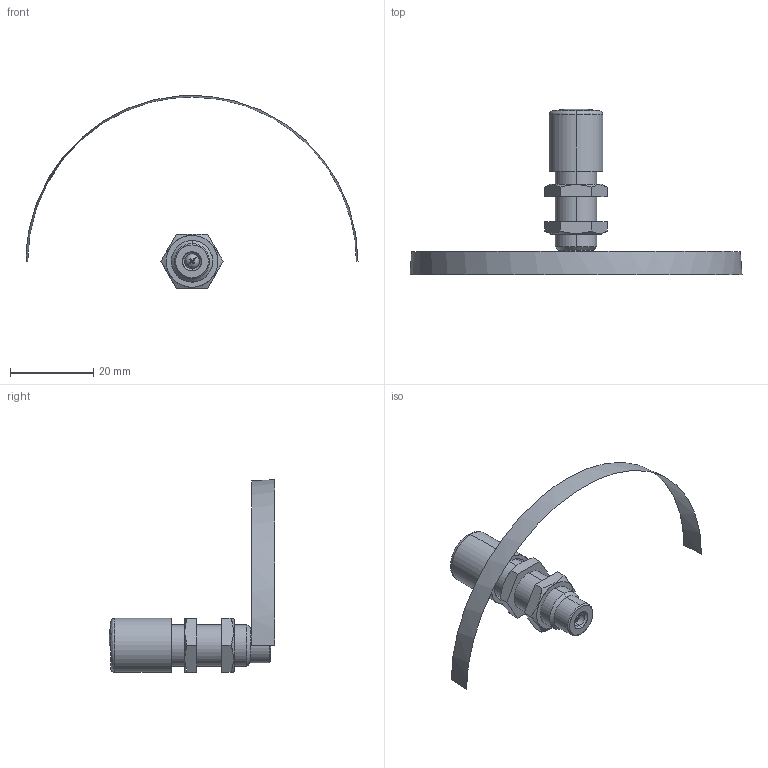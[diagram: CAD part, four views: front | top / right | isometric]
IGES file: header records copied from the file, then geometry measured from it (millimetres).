
Start section: SolidWorks IGES file using analytic representation for surfaces
Global section: file name: Y:\CAD\HP用CADデータ\210305_HP更新用\3D\FA-1005PMB□-C-060.IGS; native system: SolidWorks 2021; preprocessor: SolidWorks 2021; author: flgijutsu; date: 210310.143216; units: millimetre
Bounding box: 80 x 40 x 46.41 mm (x, y, z)
Surface area: 3052.2 mm2 (no closed solid volume)
Topology: 0 solids, 0 shells, 53 faces, 728 edges, 727 vertices
Faces by surface type: bspline 29, revolution 24
